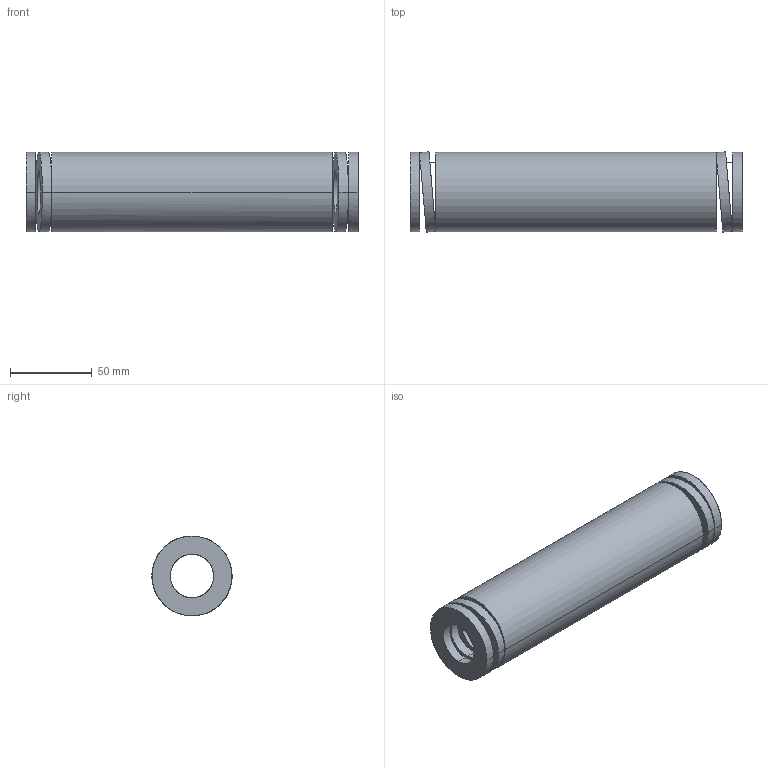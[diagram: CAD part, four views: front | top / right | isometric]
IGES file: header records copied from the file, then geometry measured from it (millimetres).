
Start section: START RECORD GO HERE.
Global section: file name: 392-B50-203.igs; native system: DASSAULT SYSTEMES CATIA V5 R20 - www.3ds.com; preprocessor: CATIA Version 5 Release 20 ; author: Utente; organization: NB04-ASUS; date: 20210813.132539; units: millimetre
Bounding box: 203 x 49.12 x 48.8 mm (x, y, z)
Surface area: 59208.3 mm2 (no closed solid volume)
Topology: 0 solids, 0 shells, 38 faces, 184 edges, 184 vertices
Faces by surface type: revolution 28, plane 10
